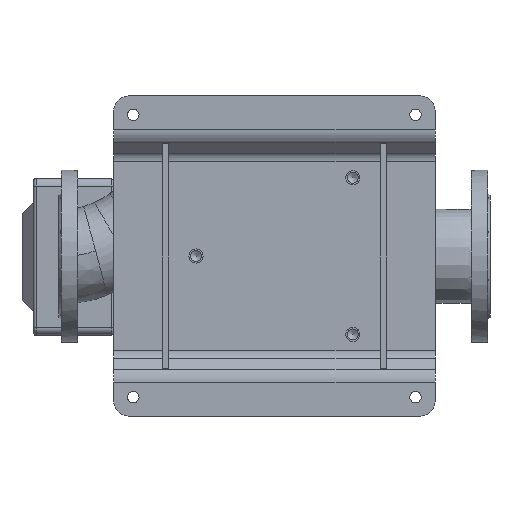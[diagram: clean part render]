
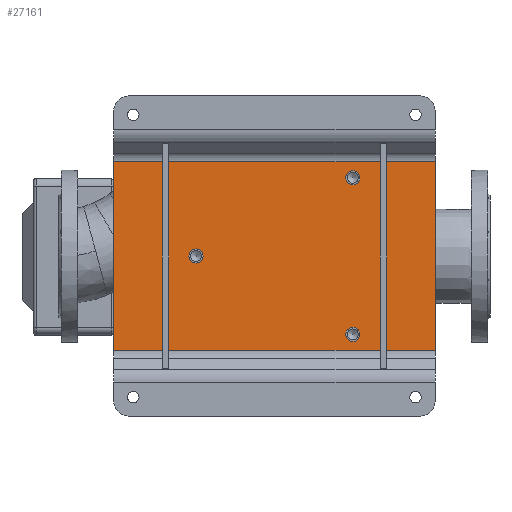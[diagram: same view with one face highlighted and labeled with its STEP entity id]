
A CAD part, top view. The second image highlights one B-rep face of the part: STEP entity #27161.
In plain terms, the highlighted planar face has unit normal (0, 0, 1) as drawn and (0, -1, 0) by its records, which use the part's own axes.
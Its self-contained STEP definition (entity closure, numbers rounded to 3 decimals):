
#1086 = VERTEX_POINT ( 'NONE', #33916 ) ;
#2221 = FACE_BOUND ( 'NONE', #78924, .T. ) ;
#4628 = CARTESIAN_POINT ( 'NONE',  ( 100., -8., 100. ) ) ;
#5606 = ORIENTED_EDGE ( 'NONE', *, *, #73888, .F. ) ;
#8760 = FACE_BOUND ( 'NONE', #16183, .T. ) ;
#11215 = CARTESIAN_POINT ( 'NONE',  ( 120., -8., 205. ) ) ;
#11568 = CARTESIAN_POINT ( 'NONE',  ( -120., -8., -205. ) ) ;
#12132 = CARTESIAN_POINT ( 'NONE',  ( -120., -8., 205. ) ) ;
#13186 = VERTEX_POINT ( 'NONE', #26485 ) ;
#13802 = ORIENTED_EDGE ( 'NONE', *, *, #18674, .F. ) ;
#16108 = CARTESIAN_POINT ( 'NONE',  ( 0., -8., 0. ) ) ;
#16183 = EDGE_LOOP ( 'NONE', ( #13802 ) ) ;
#16839 = VERTEX_POINT ( 'NONE', #36074 ) ;
#18162 = LINE ( 'NONE', #11215, #59905 ) ;
#18549 = CIRCLE ( 'NONE', #38155, 9. ) ;
#18674 = EDGE_CURVE ( 'NONE', #48392, #48392, #18549, .T. ) ;
#22992 = CARTESIAN_POINT ( 'NONE',  ( -100., -8., 91. ) ) ;
#23448 = EDGE_CURVE ( 'NONE', #1086, #13186, #37126, .T. ) ;
#25640 = VECTOR ( 'NONE', #73591, 1000. ) ;
#26485 = CARTESIAN_POINT ( 'NONE',  ( -120., -8., 205. ) ) ;
#27161 = ADVANCED_FACE ( 'NONE', ( #2221, #47664, #8760, #77938 ), #34128, .T. ) ;
#27212 = DIRECTION ( 'NONE',  ( 0., 0., -1. ) ) ;
#27942 = DIRECTION ( 'NONE',  ( 0., 0., -1. ) ) ;
#28204 = LINE ( 'NONE', #65887, #78077 ) ;
#29330 = ORIENTED_EDGE ( 'NONE', *, *, #40044, .F. ) ;
#29770 = EDGE_CURVE ( 'NONE', #16839, #16839, #61083, .T. ) ;
#30611 = ORIENTED_EDGE ( 'NONE', *, *, #23448, .F. ) ;
#33453 = CARTESIAN_POINT ( 'NONE',  ( 0., -8., -109. ) ) ;
#33916 = CARTESIAN_POINT ( 'NONE',  ( -120., -8., -205. ) ) ;
#34128 = PLANE ( 'NONE',  #36101 ) ;
#35575 = DIRECTION ( 'NONE',  ( 1., 0., 0. ) ) ;
#36074 = CARTESIAN_POINT ( 'NONE',  ( 100., -8., 91. ) ) ;
#36101 = AXIS2_PLACEMENT_3D ( 'NONE', #16108, #59123, #27212 ) ;
#36556 = DIRECTION ( 'NONE',  ( -1., 0., 0. ) ) ;
#37126 = LINE ( 'NONE', #12132, #25640 ) ;
#37603 = EDGE_CURVE ( 'NONE', #77614, #1086, #43120, .T. ) ;
#38155 = AXIS2_PLACEMENT_3D ( 'NONE', #53340, #65632, #27942 ) ;
#40044 = EDGE_CURVE ( 'NONE', #63793, #63793, #63937, .T. ) ;
#41933 = DIRECTION ( 'NONE',  ( 0., 0., -1. ) ) ;
#43120 = LINE ( 'NONE', #11568, #65325 ) ;
#43792 = EDGE_LOOP ( 'NONE', ( #29330 ) ) ;
#45588 = CARTESIAN_POINT ( 'NONE',  ( 120., -8., -205. ) ) ;
#47664 = FACE_BOUND ( 'NONE', #43792, .T. ) ;
#48392 = VERTEX_POINT ( 'NONE', #22992 ) ;
#50006 = CARTESIAN_POINT ( 'NONE',  ( 0., -8., -100. ) ) ;
#52607 = EDGE_LOOP ( 'NONE', ( #60511, #5606, #30611, #55136 ) ) ;
#53340 = CARTESIAN_POINT ( 'NONE',  ( -100., -8., 100. ) ) ;
#55136 = ORIENTED_EDGE ( 'NONE', *, *, #37603, .F. ) ;
#55326 = DIRECTION ( 'NONE',  ( 0., 0., -1. ) ) ;
#57153 = AXIS2_PLACEMENT_3D ( 'NONE', #4628, #73031, #41933 ) ;
#59123 = DIRECTION ( 'NONE',  ( 0., -1., 0. ) ) ;
#59905 = VECTOR ( 'NONE', #80811, 1000. ) ;
#60511 = ORIENTED_EDGE ( 'NONE', *, *, #76568, .F. ) ;
#61083 = CIRCLE ( 'NONE', #57153, 9. ) ;
#62689 = DIRECTION ( 'NONE',  ( 0., -1., 0. ) ) ;
#63793 = VERTEX_POINT ( 'NONE', #33453 ) ;
#63937 = CIRCLE ( 'NONE', #66543, 9. ) ;
#64244 = VERTEX_POINT ( 'NONE', #65843 ) ;
#65325 = VECTOR ( 'NONE', #36556, 1000. ) ;
#65632 = DIRECTION ( 'NONE',  ( 0., -1., 0. ) ) ;
#65843 = CARTESIAN_POINT ( 'NONE',  ( 120., -8., 205. ) ) ;
#65887 = CARTESIAN_POINT ( 'NONE',  ( -120., -8., 205. ) ) ;
#66543 = AXIS2_PLACEMENT_3D ( 'NONE', #50006, #62689, #55326 ) ;
#68502 = ORIENTED_EDGE ( 'NONE', *, *, #29770, .F. ) ;
#73031 = DIRECTION ( 'NONE',  ( 0., -1., 0. ) ) ;
#73591 = DIRECTION ( 'NONE',  ( 0., 0., 1. ) ) ;
#73888 = EDGE_CURVE ( 'NONE', #13186, #64244, #28204, .T. ) ;
#76568 = EDGE_CURVE ( 'NONE', #64244, #77614, #18162, .T. ) ;
#77614 = VERTEX_POINT ( 'NONE', #45588 ) ;
#77938 = FACE_OUTER_BOUND ( 'NONE', #52607, .T. ) ;
#78077 = VECTOR ( 'NONE', #35575, 1000. ) ;
#78924 = EDGE_LOOP ( 'NONE', ( #68502 ) ) ;
#80811 = DIRECTION ( 'NONE',  ( 0., 0., -1. ) ) ;
